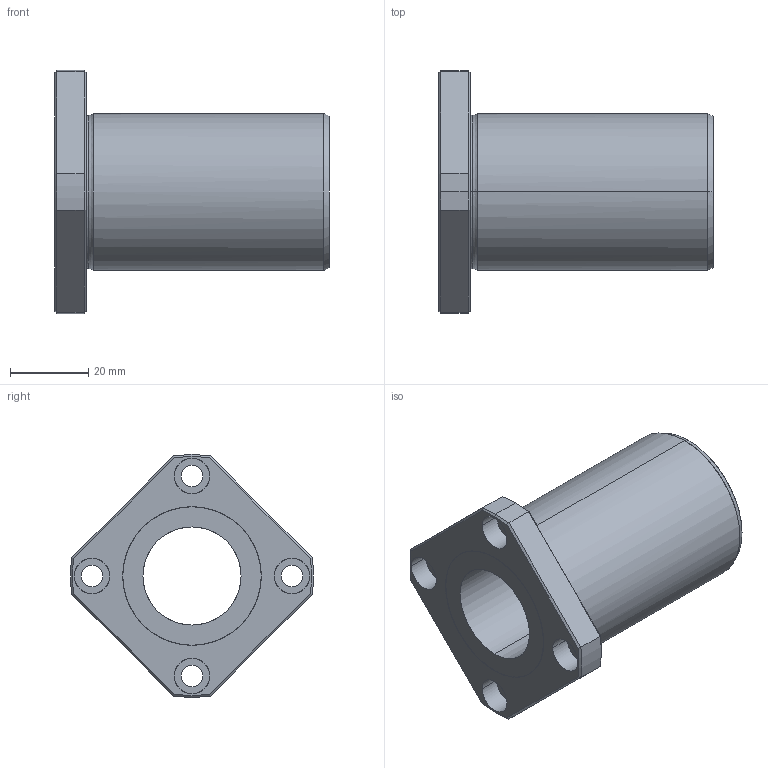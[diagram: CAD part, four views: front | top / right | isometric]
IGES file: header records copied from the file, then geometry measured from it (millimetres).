
Global section: file name: No Iges File Name specified; native system: AutoDesk Inventor R10; preprocessor: AutoDesk Inventor Iges Exporter R10; author: No Author specified; organization: No Organization specified; date: 20101216.154830; units: millimetre
Bounding box: 70 x 61.92 x 62 mm (x, y, z)
Surface area: 19110.9 mm2 (no closed solid volume)
Topology: 0 solids, 0 shells, 69 faces, 416 edges, 416 vertices
Faces by surface type: bspline 69
